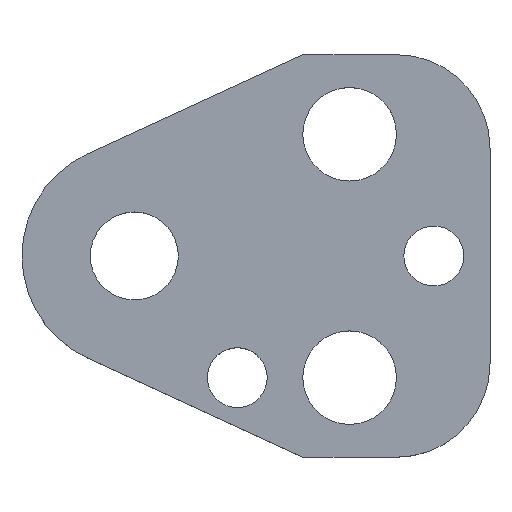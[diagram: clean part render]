
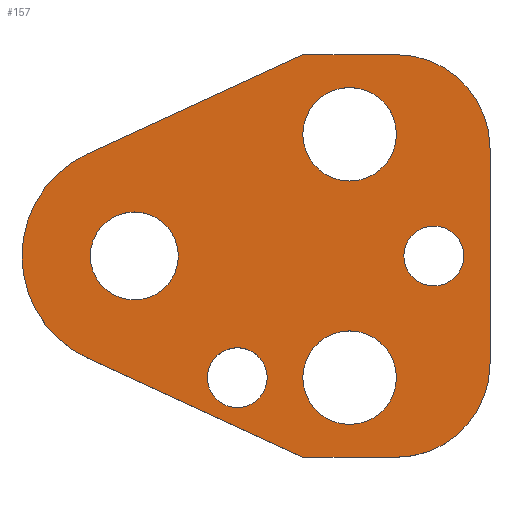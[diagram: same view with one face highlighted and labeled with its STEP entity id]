
A CAD part, top view. The second image highlights one B-rep face of the part: STEP entity #157.
In plain terms, the highlighted planar face has unit normal (0, 0, 1).
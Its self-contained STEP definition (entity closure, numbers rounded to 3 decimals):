
#103=FACE_BOUND('',#207,.T.);
#104=FACE_BOUND('',#208,.T.);
#105=FACE_BOUND('',#209,.T.);
#106=FACE_BOUND('',#210,.T.);
#107=FACE_BOUND('',#211,.T.);
#108=FACE_BOUND('',#212,.T.);
#122=CIRCLE('',#480,10.);
#124=CIRCLE('',#484,10.);
#127=CIRCLE('',#490,12.);
#138=CIRCLE('',#503,3.2);
#139=CIRCLE('',#504,3.2);
#140=CIRCLE('',#505,5.);
#141=CIRCLE('',#506,5.);
#142=CIRCLE('',#507,5.);
#143=CIRCLE('',#508,5.);
#144=CIRCLE('',#509,3.2);
#145=CIRCLE('',#510,3.2);
#146=CIRCLE('',#511,4.7);
#147=CIRCLE('',#512,4.7);
#157=ADVANCED_FACE('',(#103,#104,#105,#106,#107,#108),#174,.T.);
#174=PLANE('',#513);
#207=EDGE_LOOP('',(#273,#274,#275,#276,#277,#278,#279,#280));
#208=EDGE_LOOP('',(#281,#282));
#209=EDGE_LOOP('',(#283,#284));
#210=EDGE_LOOP('',(#285,#286));
#211=EDGE_LOOP('',(#287,#288));
#212=EDGE_LOOP('',(#289,#290));
#273=ORIENTED_EDGE('',*,*,#368,.T.);
#274=ORIENTED_EDGE('',*,*,#372,.T.);
#275=ORIENTED_EDGE('',*,*,#375,.T.);
#276=ORIENTED_EDGE('',*,*,#378,.T.);
#277=ORIENTED_EDGE('',*,*,#381,.T.);
#278=ORIENTED_EDGE('',*,*,#384,.T.);
#279=ORIENTED_EDGE('',*,*,#387,.T.);
#280=ORIENTED_EDGE('',*,*,#390,.T.);
#281=ORIENTED_EDGE('',*,*,#401,.T.);
#282=ORIENTED_EDGE('',*,*,#402,.T.);
#283=ORIENTED_EDGE('',*,*,#403,.T.);
#284=ORIENTED_EDGE('',*,*,#404,.T.);
#285=ORIENTED_EDGE('',*,*,#405,.T.);
#286=ORIENTED_EDGE('',*,*,#406,.T.);
#287=ORIENTED_EDGE('',*,*,#407,.T.);
#288=ORIENTED_EDGE('',*,*,#408,.T.);
#289=ORIENTED_EDGE('',*,*,#409,.T.);
#290=ORIENTED_EDGE('',*,*,#410,.T.);
#332=VERTEX_POINT('',#649);
#333=VERTEX_POINT('',#651);
#336=VERTEX_POINT('',#658);
#338=VERTEX_POINT('',#664);
#340=VERTEX_POINT('',#670);
#342=VERTEX_POINT('',#676);
#344=VERTEX_POINT('',#682);
#346=VERTEX_POINT('',#688);
#357=VERTEX_POINT('',#717);
#358=VERTEX_POINT('',#718);
#359=VERTEX_POINT('',#721);
#360=VERTEX_POINT('',#722);
#361=VERTEX_POINT('',#725);
#362=VERTEX_POINT('',#726);
#363=VERTEX_POINT('',#729);
#364=VERTEX_POINT('',#730);
#365=VERTEX_POINT('',#733);
#366=VERTEX_POINT('',#734);
#368=EDGE_CURVE('',#333,#332,#422,.T.);
#372=EDGE_CURVE('',#332,#336,#426,.T.);
#375=EDGE_CURVE('',#336,#338,#122,.T.);
#378=EDGE_CURVE('',#338,#340,#430,.T.);
#381=EDGE_CURVE('',#340,#342,#124,.T.);
#384=EDGE_CURVE('',#342,#344,#434,.T.);
#387=EDGE_CURVE('',#344,#346,#437,.T.);
#390=EDGE_CURVE('',#346,#333,#127,.T.);
#401=EDGE_CURVE('',#357,#358,#138,.T.);
#402=EDGE_CURVE('',#358,#357,#139,.T.);
#403=EDGE_CURVE('',#359,#360,#140,.T.);
#404=EDGE_CURVE('',#360,#359,#141,.T.);
#405=EDGE_CURVE('',#361,#362,#142,.T.);
#406=EDGE_CURVE('',#362,#361,#143,.T.);
#407=EDGE_CURVE('',#363,#364,#144,.T.);
#408=EDGE_CURVE('',#364,#363,#145,.T.);
#409=EDGE_CURVE('',#365,#366,#146,.T.);
#410=EDGE_CURVE('',#366,#365,#147,.T.);
#422=LINE('',#650,#450);
#426=LINE('',#659,#454);
#430=LINE('',#671,#458);
#434=LINE('',#683,#462);
#437=LINE('',#689,#465);
#450=VECTOR('',#527,1.);
#454=VECTOR('',#533,1.);
#458=VECTOR('',#545,1.);
#462=VECTOR('',#557,1.);
#465=VECTOR('',#562,1.);
#480=AXIS2_PLACEMENT_3D('',#665,#538,#539);
#484=AXIS2_PLACEMENT_3D('',#677,#550,#551);
#490=AXIS2_PLACEMENT_3D('',#693,#568,#569);
#503=AXIS2_PLACEMENT_3D('',#716,#594,#595);
#504=AXIS2_PLACEMENT_3D('',#719,#596,#597);
#505=AXIS2_PLACEMENT_3D('',#720,#598,#599);
#506=AXIS2_PLACEMENT_3D('',#723,#600,#601);
#507=AXIS2_PLACEMENT_3D('',#724,#602,#603);
#508=AXIS2_PLACEMENT_3D('',#727,#604,#605);
#509=AXIS2_PLACEMENT_3D('',#728,#606,#607);
#510=AXIS2_PLACEMENT_3D('',#731,#608,#609);
#511=AXIS2_PLACEMENT_3D('',#732,#610,#611);
#512=AXIS2_PLACEMENT_3D('',#735,#612,#613);
#513=AXIS2_PLACEMENT_3D('',#736,#614,#615);
#527=DIRECTION('',(0.908,-0.418,0.));
#533=DIRECTION('',(1.,0.,0.));
#538=DIRECTION('',(0.,0.,1.));
#539=DIRECTION('',(-0.707,0.707,0.));
#545=DIRECTION('',(0.,1.,0.));
#550=DIRECTION('',(0.,0.,1.));
#551=DIRECTION('',(-0.707,-0.707,0.));
#557=DIRECTION('',(-1.,0.,0.));
#562=DIRECTION('',(-0.908,-0.418,0.));
#568=DIRECTION('',(0.,0.,1.));
#569=DIRECTION('',(1.,0.,0.));
#594=DIRECTION('',(0.,0.,-1.));
#595=DIRECTION('',(-1.,0.,0.));
#596=DIRECTION('',(0.,0.,-1.));
#597=DIRECTION('',(1.,0.,0.));
#598=DIRECTION('',(0.,0.,-1.));
#599=DIRECTION('',(-1.,0.,0.));
#600=DIRECTION('',(0.,0.,-1.));
#601=DIRECTION('',(1.,0.,0.));
#602=DIRECTION('',(0.,0.,-1.));
#603=DIRECTION('',(-1.,0.,0.));
#604=DIRECTION('',(0.,0.,-1.));
#605=DIRECTION('',(1.,0.,0.));
#606=DIRECTION('',(0.,0.,-1.));
#607=DIRECTION('',(-1.,0.,0.));
#608=DIRECTION('',(0.,0.,-1.));
#609=DIRECTION('',(1.,0.,0.));
#610=DIRECTION('',(0.,0.,-1.));
#611=DIRECTION('',(-1.,0.,0.));
#612=DIRECTION('',(0.,0.,-1.));
#613=DIRECTION('',(1.,0.,0.));
#614=DIRECTION('',(0.,0.,1.));
#615=DIRECTION('',(0.908,-0.418,0.));
#649=CARTESIAN_POINT('',(18.,-21.5,5.));
#650=CARTESIAN_POINT('',(18.,-21.5,5.));
#651=CARTESIAN_POINT('',(-5.019,-10.9,5.));
#658=CARTESIAN_POINT('',(28.,-21.5,5.));
#659=CARTESIAN_POINT('',(18.,-21.5,5.));
#664=CARTESIAN_POINT('',(38.,-11.5,5.));
#665=CARTESIAN_POINT('',(28.,-11.5,5.));
#670=CARTESIAN_POINT('',(38.,11.5,5.));
#671=CARTESIAN_POINT('',(38.,11.5,5.));
#676=CARTESIAN_POINT('',(28.,21.5,5.));
#677=CARTESIAN_POINT('',(28.,11.5,5.));
#682=CARTESIAN_POINT('',(18.,21.5,5.));
#683=CARTESIAN_POINT('',(18.,21.5,5.));
#688=CARTESIAN_POINT('',(-5.019,10.9,5.));
#689=CARTESIAN_POINT('',(18.,21.5,5.));
#693=CARTESIAN_POINT('',(0.,0.,5.));
#716=CARTESIAN_POINT('',(32.,0.,5.));
#717=CARTESIAN_POINT('',(32.,3.2,5.));
#718=CARTESIAN_POINT('',(32.,-3.2,5.));
#719=CARTESIAN_POINT('',(32.,0.,5.));
#720=CARTESIAN_POINT('',(23.,13.,5.));
#721=CARTESIAN_POINT('',(23.,18.,5.));
#722=CARTESIAN_POINT('',(23.,8.,5.));
#723=CARTESIAN_POINT('',(23.,13.,5.));
#724=CARTESIAN_POINT('',(23.,-13.,5.));
#725=CARTESIAN_POINT('',(23.,-8.,5.));
#726=CARTESIAN_POINT('',(23.,-18.,5.));
#727=CARTESIAN_POINT('',(23.,-13.,5.));
#728=CARTESIAN_POINT('',(11.,-13.,5.));
#729=CARTESIAN_POINT('',(11.,-9.8,5.));
#730=CARTESIAN_POINT('',(11.,-16.2,5.));
#731=CARTESIAN_POINT('',(11.,-13.,5.));
#732=CARTESIAN_POINT('',(0.,0.,5.));
#733=CARTESIAN_POINT('',(0.,4.7,5.));
#734=CARTESIAN_POINT('',(0.,-4.7,5.));
#735=CARTESIAN_POINT('',(0.,0.,5.));
#736=CARTESIAN_POINT('',(-5.019,-10.9,5.));
